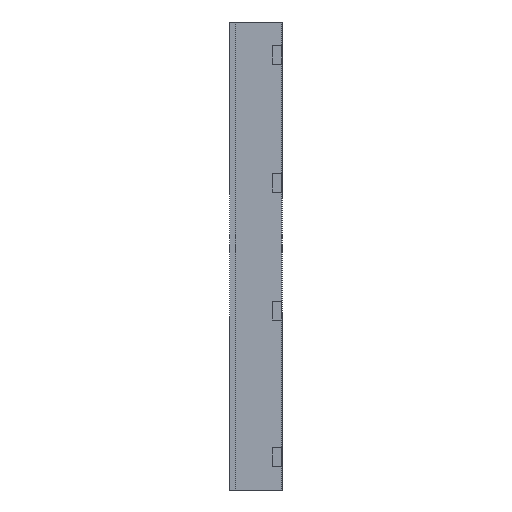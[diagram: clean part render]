
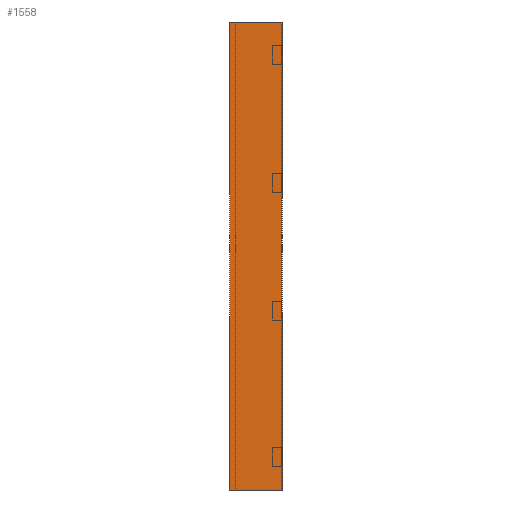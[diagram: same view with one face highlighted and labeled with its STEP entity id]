
A CAD part, left-side view. The second image highlights one B-rep face of the part: STEP entity #1558.
In plain terms, the highlighted planar face has unit normal (-1, 0, 0).
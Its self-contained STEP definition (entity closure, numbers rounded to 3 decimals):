
#67 = DIRECTION ( 'NONE',  ( 0., -1., 0. ) ) ;
#80 = EDGE_CURVE ( 'NONE', #1677, #1056, #1116, .T. ) ;
#102 = ORIENTED_EDGE ( 'NONE', *, *, #1340, .T. ) ;
#212 = DIRECTION ( 'NONE',  ( 0., 0., 1. ) ) ;
#259 = VECTOR ( 'NONE', #1214, 1000. ) ;
#307 = CARTESIAN_POINT ( 'NONE',  ( 0., 0., -1000. ) ) ;
#313 = LINE ( 'NONE', #840, #834 ) ;
#356 = VECTOR ( 'NONE', #552, 1000. ) ;
#390 = EDGE_CURVE ( 'NONE', #1457, #1285, #1354, .T. ) ;
#460 = ORIENTED_EDGE ( 'NONE', *, *, #390, .T. ) ;
#547 = CARTESIAN_POINT ( 'NONE',  ( 0., 0., 0. ) ) ;
#552 = DIRECTION ( 'NONE',  ( 0., -1., 0. ) ) ;
#601 = DIRECTION ( 'NONE',  ( 0., 0., 1. ) ) ;
#624 = EDGE_LOOP ( 'NONE', ( #1061, #1306, #102, #460 ) ) ;
#629 = DIRECTION ( 'NONE',  ( -1., 0., 0. ) ) ;
#820 = VECTOR ( 'NONE', #212, 1000. ) ;
#834 = VECTOR ( 'NONE', #67, 1000. ) ;
#840 = CARTESIAN_POINT ( 'NONE',  ( 0., 0., 0. ) ) ;
#888 = CARTESIAN_POINT ( 'NONE',  ( 0., 112.5, -1000. ) ) ;
#994 = CARTESIAN_POINT ( 'NONE',  ( 0., 112.5, 0. ) ) ;
#1056 = VERTEX_POINT ( 'NONE', #994 ) ;
#1061 = ORIENTED_EDGE ( 'NONE', *, *, #1461, .F. ) ;
#1084 = CARTESIAN_POINT ( 'NONE',  ( 0., 0., -1000. ) ) ;
#1116 = LINE ( 'NONE', #888, #820 ) ;
#1198 = CARTESIAN_POINT ( 'NONE',  ( 0., 0., -1000. ) ) ;
#1214 = DIRECTION ( 'NONE',  ( 0., 0., 1. ) ) ;
#1285 = VERTEX_POINT ( 'NONE', #547 ) ;
#1306 = ORIENTED_EDGE ( 'NONE', *, *, #80, .F. ) ;
#1309 = LINE ( 'NONE', #1198, #356 ) ;
#1329 = CARTESIAN_POINT ( 'NONE',  ( 0., 112.5, -1000. ) ) ;
#1340 = EDGE_CURVE ( 'NONE', #1677, #1457, #1309, .T. ) ;
#1354 = LINE ( 'NONE', #1084, #259 ) ;
#1383 = CARTESIAN_POINT ( 'NONE',  ( 0., 0., -1000. ) ) ;
#1403 = FACE_OUTER_BOUND ( 'NONE', #624, .T. ) ;
#1423 = PLANE ( 'NONE',  #1676 ) ;
#1457 = VERTEX_POINT ( 'NONE', #307 ) ;
#1461 = EDGE_CURVE ( 'NONE', #1056, #1285, #313, .T. ) ;
#1558 = ADVANCED_FACE ( 'NONE', ( #1403 ), #1423, .T. ) ;
#1676 = AXIS2_PLACEMENT_3D ( 'NONE', #1383, #629, #601 ) ;
#1677 = VERTEX_POINT ( 'NONE', #1329 ) ;
